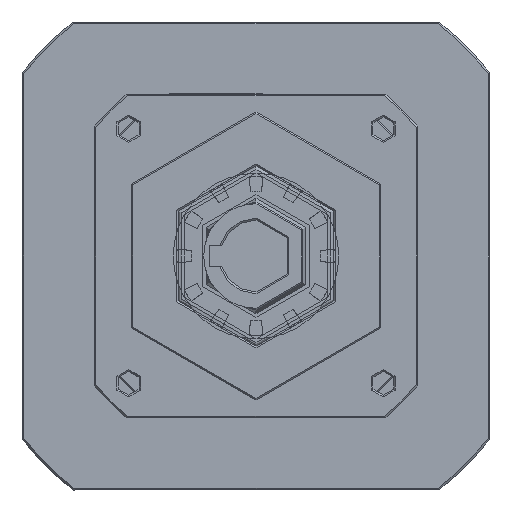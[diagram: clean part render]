
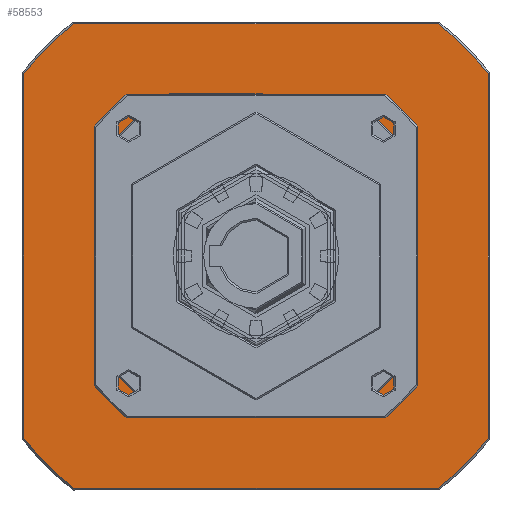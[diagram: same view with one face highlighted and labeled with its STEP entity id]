
A CAD part, left-side view. The second image highlights one B-rep face of the part: STEP entity #58553.
In plain terms, the highlighted planar face has unit normal (-1, 0, 0).
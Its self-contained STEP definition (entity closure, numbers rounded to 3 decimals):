
#954 = CARTESIAN_POINT ( 'NONE',  ( 88.5, -44.5, 23.875 ) ) ;
#1187 = LINE ( 'NONE', #85079, #63179 ) ;
#2174 = CIRCLE ( 'NONE', #32143, 50.5 ) ;
#2926 = EDGE_CURVE ( 'NONE', #65332, #68166, #83496, .T. ) ;
#3174 = EDGE_CURVE ( 'NONE', #78034, #76073, #2174, .T. ) ;
#3489 = VERTEX_POINT ( 'NONE', #14989 ) ;
#3774 = DIRECTION ( 'NONE',  ( 0., 0., -1. ) ) ;
#4296 = AXIS2_PLACEMENT_3D ( 'NONE', #55663, #68447, #62198 ) ;
#4687 = CARTESIAN_POINT ( 'NONE',  ( 88.5, 44.5, -23.875 ) ) ;
#4937 = VECTOR ( 'NONE', #75242, 1000. ) ;
#5179 = DIRECTION ( 'NONE',  ( -1., 0., 0. ) ) ;
#6862 = ORIENTED_EDGE ( 'NONE', *, *, #81978, .F. ) ;
#7065 = ORIENTED_EDGE ( 'NONE', *, *, #45047, .T. ) ;
#8938 = EDGE_LOOP ( 'NONE', ( #30294, #16426, #45871, #64739, #83450, #26363, #60004, #7065 ) ) ;
#9036 = EDGE_CURVE ( 'NONE', #29553, #30150, #73422, .T. ) ;
#9527 = CARTESIAN_POINT ( 'NONE',  ( 88.5, 23.875, -44.5 ) ) ;
#10586 = CARTESIAN_POINT ( 'NONE',  ( 88.5, 23.875, 44.5 ) ) ;
#10704 = CARTESIAN_POINT ( 'NONE',  ( 88.5, 0., 64.5 ) ) ;
#11051 = CARTESIAN_POINT ( 'NONE',  ( 88.5, 0., 44.5 ) ) ;
#11615 = VECTOR ( 'NONE', #34137, 1000. ) ;
#12769 = CIRCLE ( 'NONE', #72826, 50.5 ) ;
#13275 = CARTESIAN_POINT ( 'NONE',  ( 88.5, 0., 0. ) ) ;
#13398 = CARTESIAN_POINT ( 'NONE',  ( 88.5, 0., 0. ) ) ;
#14116 = CARTESIAN_POINT ( 'NONE',  ( 88.5, -23.875, -44.5 ) ) ;
#14256 = CARTESIAN_POINT ( 'NONE',  ( 88.5, -23.875, 44.5 ) ) ;
#14821 = LINE ( 'NONE', #10704, #76818 ) ;
#14989 = CARTESIAN_POINT ( 'NONE',  ( 88.5, -50.633, -64.5 ) ) ;
#15598 = DIRECTION ( 'NONE',  ( 0., 0., -1. ) ) ;
#15761 = CARTESIAN_POINT ( 'NONE',  ( 88.5, 44.5, 23.875 ) ) ;
#16106 = CARTESIAN_POINT ( 'NONE',  ( 88.5, -44.5, -23.875 ) ) ;
#16426 = ORIENTED_EDGE ( 'NONE', *, *, #3174, .T. ) ;
#16492 = LINE ( 'NONE', #23019, #51741 ) ;
#18339 = DIRECTION ( 'NONE',  ( 0., 0., -1. ) ) ;
#20005 = CARTESIAN_POINT ( 'NONE',  ( 88.5, 44.5, 0. ) ) ;
#20822 = CARTESIAN_POINT ( 'NONE',  ( 88.5, -64.5, 50.633 ) ) ;
#21905 = EDGE_CURVE ( 'NONE', #3489, #54351, #74416, .T. ) ;
#22754 = CARTESIAN_POINT ( 'NONE',  ( 88.5, -64.5, -50.633 ) ) ;
#23019 = CARTESIAN_POINT ( 'NONE',  ( 88.5, 64.5, 0. ) ) ;
#23230 = VERTEX_POINT ( 'NONE', #86870 ) ;
#23424 = EDGE_CURVE ( 'NONE', #55213, #3489, #75256, .T. ) ;
#24080 = DIRECTION ( 'NONE',  ( 0., 0., 1. ) ) ;
#25008 = VECTOR ( 'NONE', #52444, 1000. ) ;
#25137 = CARTESIAN_POINT ( 'NONE',  ( 88.5, 0., 0. ) ) ;
#26249 = EDGE_CURVE ( 'NONE', #65332, #54351, #26779, .T. ) ;
#26363 = ORIENTED_EDGE ( 'NONE', *, *, #67137, .T. ) ;
#26728 = DIRECTION ( 'NONE',  ( 1., 0., 0. ) ) ;
#26779 = LINE ( 'NONE', #66962, #75993 ) ;
#26849 = DIRECTION ( 'NONE',  ( -1., 0., 0. ) ) ;
#27245 = AXIS2_PLACEMENT_3D ( 'NONE', #13398, #60903, #40021 ) ;
#27923 = CIRCLE ( 'NONE', #27245, 82. ) ;
#29075 = ORIENTED_EDGE ( 'NONE', *, *, #26249, .F. ) ;
#29553 = VERTEX_POINT ( 'NONE', #15761 ) ;
#30150 = VERTEX_POINT ( 'NONE', #10586 ) ;
#30294 = ORIENTED_EDGE ( 'NONE', *, *, #85086, .T. ) ;
#30476 = ORIENTED_EDGE ( 'NONE', *, *, #21905, .T. ) ;
#30556 = CIRCLE ( 'NONE', #46685, 82. ) ;
#31236 = ORIENTED_EDGE ( 'NONE', *, *, #23424, .T. ) ;
#32143 = AXIS2_PLACEMENT_3D ( 'NONE', #25137, #38908, #86746 ) ;
#32180 = ORIENTED_EDGE ( 'NONE', *, *, #60216, .T. ) ;
#34137 = DIRECTION ( 'NONE',  ( 0., 0., -1. ) ) ;
#34717 = FACE_BOUND ( 'NONE', #8938, .T. ) ;
#38097 = CARTESIAN_POINT ( 'NONE',  ( 88.5, -50.633, 64.5 ) ) ;
#38342 = VERTEX_POINT ( 'NONE', #954 ) ;
#38908 = DIRECTION ( 'NONE',  ( 1., 0., 0. ) ) ;
#38985 = CARTESIAN_POINT ( 'NONE',  ( 88.5, 0., 0. ) ) ;
#40021 = DIRECTION ( 'NONE',  ( 0., 0., -1. ) ) ;
#40618 = DIRECTION ( 'NONE',  ( 0., 0., -1. ) ) ;
#41809 = CARTESIAN_POINT ( 'NONE',  ( 88.5, 50.633, -64.5 ) ) ;
#41870 = ORIENTED_EDGE ( 'NONE', *, *, #2926, .T. ) ;
#42297 = EDGE_CURVE ( 'NONE', #30150, #65484, #85799, .T. ) ;
#42601 = EDGE_LOOP ( 'NONE', ( #43491, #32180, #31236, #30476, #29075, #41870, #79159, #6862 ) ) ;
#42603 = CARTESIAN_POINT ( 'NONE',  ( 88.5, 64.5, -50.633 ) ) ;
#42722 = CIRCLE ( 'NONE', #4296, 50.5 ) ;
#43491 = ORIENTED_EDGE ( 'NONE', *, *, #71179, .F. ) ;
#44774 = DIRECTION ( 'NONE',  ( 1., 0., 0. ) ) ;
#45047 = EDGE_CURVE ( 'NONE', #47093, #78794, #42722, .T. ) ;
#45321 = DIRECTION ( 'NONE',  ( 1., 0., 0. ) ) ;
#45844 = EDGE_CURVE ( 'NONE', #68166, #49787, #14821, .T. ) ;
#45871 = ORIENTED_EDGE ( 'NONE', *, *, #68876, .T. ) ;
#46360 = VECTOR ( 'NONE', #64206, 1000. ) ;
#46424 = AXIS2_PLACEMENT_3D ( 'NONE', #38985, #5179, #18339 ) ;
#46685 = AXIS2_PLACEMENT_3D ( 'NONE', #79108, #44774, #3774 ) ;
#46761 = AXIS2_PLACEMENT_3D ( 'NONE', #73769, #26849, #40618 ) ;
#47093 = VERTEX_POINT ( 'NONE', #16106 ) ;
#49787 = VERTEX_POINT ( 'NONE', #60289 ) ;
#51741 = VECTOR ( 'NONE', #84305, 1000. ) ;
#52444 = DIRECTION ( 'NONE',  ( 0., -1., 0. ) ) ;
#54351 = VERTEX_POINT ( 'NONE', #22754 ) ;
#55213 = VERTEX_POINT ( 'NONE', #41809 ) ;
#55360 = CARTESIAN_POINT ( 'NONE',  ( 88.5, -44.5, 0. ) ) ;
#55663 = CARTESIAN_POINT ( 'NONE',  ( 88.5, 0., 0. ) ) ;
#56291 = DIRECTION ( 'NONE',  ( 1., 0., 0. ) ) ;
#56594 = PLANE ( 'NONE',  #60364 ) ;
#58553 = ADVANCED_FACE ( 'NONE', ( #34717, #87138 ), #56594, .F. ) ;
#58670 = LINE ( 'NONE', #55360, #11615 ) ;
#59471 = VERTEX_POINT ( 'NONE', #42603 ) ;
#60004 = ORIENTED_EDGE ( 'NONE', *, *, #78951, .T. ) ;
#60216 = EDGE_CURVE ( 'NONE', #59471, #55213, #27923, .T. ) ;
#60289 = CARTESIAN_POINT ( 'NONE',  ( 88.5, 50.633, 64.5 ) ) ;
#60364 = AXIS2_PLACEMENT_3D ( 'NONE', #62788, #56291, #15598 ) ;
#60903 = DIRECTION ( 'NONE',  ( -1., 0., 0. ) ) ;
#62198 = DIRECTION ( 'NONE',  ( 0., 0., 1. ) ) ;
#62788 = CARTESIAN_POINT ( 'NONE',  ( 88.5, -64.5, 64.5 ) ) ;
#63179 = VECTOR ( 'NONE', #77287, 1000. ) ;
#63743 = LINE ( 'NONE', #20005, #4937 ) ;
#64206 = DIRECTION ( 'NONE',  ( 0., -1., 0. ) ) ;
#64739 = ORIENTED_EDGE ( 'NONE', *, *, #9036, .T. ) ;
#65332 = VERTEX_POINT ( 'NONE', #20822 ) ;
#65484 = VERTEX_POINT ( 'NONE', #14256 ) ;
#65813 = CARTESIAN_POINT ( 'NONE',  ( 88.5, 0., -64.5 ) ) ;
#66962 = CARTESIAN_POINT ( 'NONE',  ( 88.5, -64.5, 0. ) ) ;
#67137 = EDGE_CURVE ( 'NONE', #65484, #38342, #12769, .T. ) ;
#68146 = DIRECTION ( 'NONE',  ( 0., 0., -1. ) ) ;
#68166 = VERTEX_POINT ( 'NONE', #38097 ) ;
#68447 = DIRECTION ( 'NONE',  ( 1., 0., 0. ) ) ;
#68876 = EDGE_CURVE ( 'NONE', #76073, #29553, #63743, .T. ) ;
#71179 = EDGE_CURVE ( 'NONE', #59471, #23230, #16492, .T. ) ;
#72826 = AXIS2_PLACEMENT_3D ( 'NONE', #13275, #26728, #81991 ) ;
#73062 = CARTESIAN_POINT ( 'NONE',  ( 88.5, 0., 0. ) ) ;
#73422 = CIRCLE ( 'NONE', #78260, 50.5 ) ;
#73769 = CARTESIAN_POINT ( 'NONE',  ( 88.5, 0., 0. ) ) ;
#74416 = CIRCLE ( 'NONE', #46761, 82. ) ;
#75242 = DIRECTION ( 'NONE',  ( 0., 0., 1. ) ) ;
#75256 = LINE ( 'NONE', #65813, #25008 ) ;
#75993 = VECTOR ( 'NONE', #68146, 1000. ) ;
#76073 = VERTEX_POINT ( 'NONE', #4687 ) ;
#76818 = VECTOR ( 'NONE', #87821, 1000. ) ;
#77287 = DIRECTION ( 'NONE',  ( 0., 1., 0. ) ) ;
#78034 = VERTEX_POINT ( 'NONE', #9527 ) ;
#78260 = AXIS2_PLACEMENT_3D ( 'NONE', #73062, #45321, #24080 ) ;
#78794 = VERTEX_POINT ( 'NONE', #14116 ) ;
#78951 = EDGE_CURVE ( 'NONE', #38342, #47093, #58670, .T. ) ;
#79108 = CARTESIAN_POINT ( 'NONE',  ( 88.5, 0., 0. ) ) ;
#79159 = ORIENTED_EDGE ( 'NONE', *, *, #45844, .T. ) ;
#81978 = EDGE_CURVE ( 'NONE', #23230, #49787, #30556, .T. ) ;
#81991 = DIRECTION ( 'NONE',  ( 0., 0., 1. ) ) ;
#83450 = ORIENTED_EDGE ( 'NONE', *, *, #42297, .T. ) ;
#83496 = CIRCLE ( 'NONE', #46424, 82. ) ;
#84305 = DIRECTION ( 'NONE',  ( 0., 0., 1. ) ) ;
#85079 = CARTESIAN_POINT ( 'NONE',  ( 88.5, 0., -44.5 ) ) ;
#85086 = EDGE_CURVE ( 'NONE', #78794, #78034, #1187, .T. ) ;
#85799 = LINE ( 'NONE', #11051, #46360 ) ;
#86746 = DIRECTION ( 'NONE',  ( 0., 0., 1. ) ) ;
#86870 = CARTESIAN_POINT ( 'NONE',  ( 88.5, 64.5, 50.633 ) ) ;
#87138 = FACE_OUTER_BOUND ( 'NONE', #42601, .T. ) ;
#87821 = DIRECTION ( 'NONE',  ( 0., 1., 0. ) ) ;
